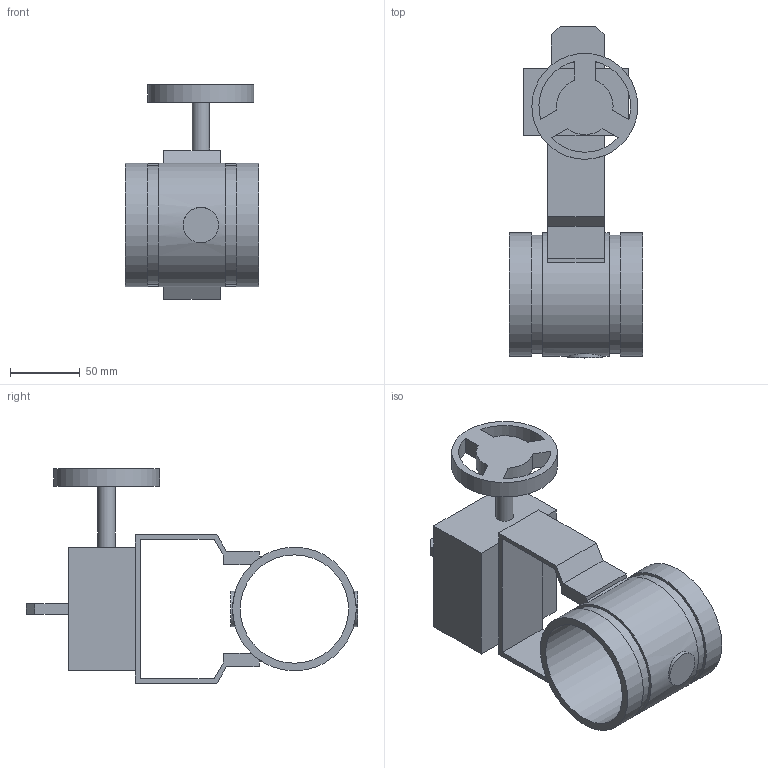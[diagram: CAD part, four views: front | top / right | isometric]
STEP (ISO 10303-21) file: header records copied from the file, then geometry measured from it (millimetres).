
FILE_DESCRIPTION(/* description */ ('VIC FIRELOCK BUTTERFLY VALVE SERIES 707 W/ WEATHERPROOF ACTUATOR FOR 300 PSI','CAx-IF Rec.Pracs.---Representation and Presentation of Product Manufacturing Information (PMI)---4.0---2014-10-13'),/* implementation_level */ '2;1');
FILE_NAME(/* name */ 'C:\Users\Vjadhav\AppData\Roaming\Autodesk\ApplicationPlugins\Back Up\Victaulic_FP-FireLock_Valve Butterfly_Series 707 (OGS)-Closed\Victaulic_FP-FireLock_Valve Butterfly_Series 707 (OGS)-Closed_3 (80).stp',/* time_stamp */ '2020-07-22T11:31:27+05:00',/* author */ ('kkamble'),/* organization */ ('Victaulic'),/* preprocessor_version */ 'ST-DEVELOPER v17.2',/* originating_system */ 'Autodesk Inventor 2019',/* authorisation */ '');
FILE_SCHEMA (('AP242_MANAGED_MODEL_BASED_3D_ENGINEERING_MIM_LF { 1 0 10303 442 1 1 4 }'));
Length unit declared in the file: inch
Products named in the file (1): 707-03.0
Bounding box: 95.76 x 238.76 x 154.43 mm (x, y, z)
Volume: 562905.1 mm3; surface area: 120925.7 mm2
Topology: 1 solids, 1 shells, 69 faces, 188 edges, 129 vertices
Faces by surface type: plane 53, cylinder 16
Full cylindrical faces by diameter (mm): 12.624 x1, 25.4 x2, 76.2 x1, 77.927 x1, 84.938 x2, 88.9 x3
Entity records: 2523 total; most frequent: CARTESIAN_POINT 473, DIRECTION 397, ORIENTED_EDGE 376, EDGE_CURVE 188, LINE 135, VECTOR 135, AXIS2_PLACEMENT_3D 131, VERTEX_POINT 129
